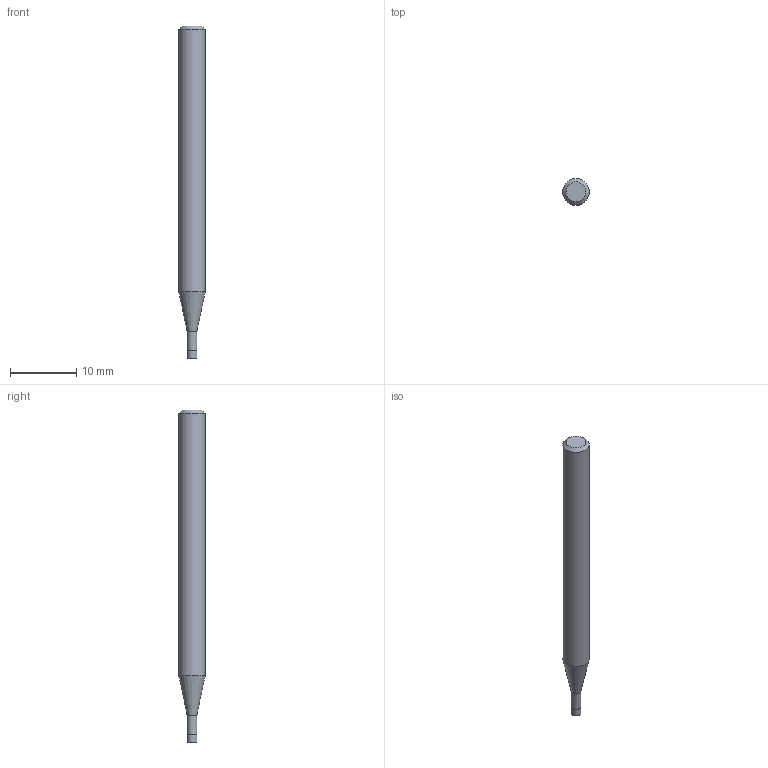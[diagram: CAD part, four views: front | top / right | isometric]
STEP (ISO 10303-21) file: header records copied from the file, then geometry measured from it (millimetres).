
FILE_DESCRIPTION((''),'2;1');
FILE_NAME('C:\Users\nsx150\AppData\Local\Temp\Mastercam 2021\RJ5U8K7RMU\TEMP.step','2021-04-21T16:41:28',(''),(''),'STEP Write','Mastercam 2021 ... CNC Software, Inc.','');
FILE_SCHEMA(('AUTOMOTIVE_DESIGN'));
Length unit declared in the file: millimetre
Products named in the file (1): None
Bounding box: 4 x 4 x 50 mm (x, y, z)
Volume: 545.5 mm3; surface area: 587.3 mm2
Topology: 2 solids, 2 shells, 9 faces, 12 edges, 7 vertices
Faces by surface type: plane 4, cylinder 3, cone 2
Full cylindrical faces by diameter (mm): 1.45 x1, 1.5 x1, 4 x1
Entity records: 211 total; most frequent: DIRECTION 36, CARTESIAN_POINT 25, AXIS2_PLACEMENT_3D 18, ORIENTED_EDGE 14, EDGE_LOOP 14, STYLED_ITEM 12, ADVANCED_FACE 9, FACE_BOUND 8
